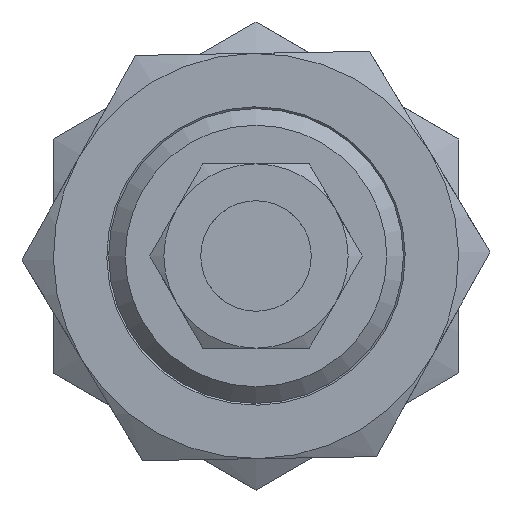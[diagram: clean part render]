
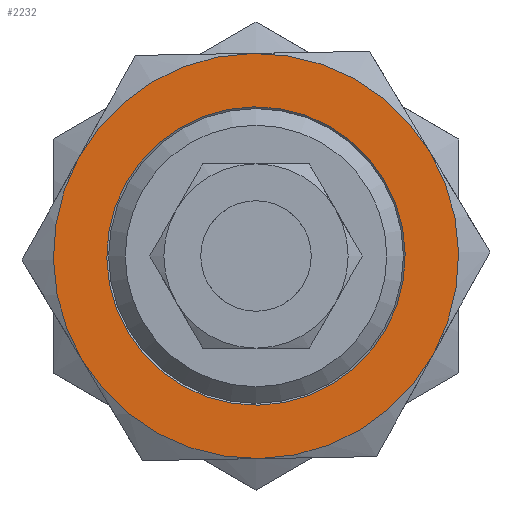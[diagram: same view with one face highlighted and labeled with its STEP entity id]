
A CAD part, front view. The second image highlights one B-rep face of the part: STEP entity #2232.
In plain terms, the highlighted planar face has unit normal (0, -1, 0) as drawn and (0, 0, 1) by its records, which use the part's own axes.
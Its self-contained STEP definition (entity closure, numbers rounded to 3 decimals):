
#1708=CARTESIAN_POINT('',(5.5,9.526,6.));
#1709=VERTEX_POINT('',#1708);
#1723=CARTESIAN_POINT('',(-5.5,9.526,6.));
#1724=VERTEX_POINT('',#1723);
#1738=CARTESIAN_POINT('',(0.0,0.0,6.));
#1739=DIRECTION('',(0.0,0.0,1.0));
#1740=DIRECTION('',(0.0,-1.0,0.0));
#1741=AXIS2_PLACEMENT_3D('',#1738,#1739,#1740);
#1742=CIRCLE('',#1741,11.0);
#1743=EDGE_CURVE('',#1709,#1724,#1742,.T.);
#1755=CARTESIAN_POINT('',(11.,0.,6.));
#1756=VERTEX_POINT('',#1755);
#1783=CARTESIAN_POINT('',(0.0,0.0,6.));
#1784=DIRECTION('',(0.0,0.0,1.0));
#1785=DIRECTION('',(0.0,-1.0,0.0));
#1786=AXIS2_PLACEMENT_3D('',#1783,#1784,#1785);
#1787=CIRCLE('',#1786,11.0);
#1788=EDGE_CURVE('',#1756,#1709,#1787,.T.);
#1800=CARTESIAN_POINT('',(5.5,-9.526,6.));
#1801=VERTEX_POINT('',#1800);
#1828=CARTESIAN_POINT('',(0.0,0.0,6.));
#1829=DIRECTION('',(0.0,0.0,1.0));
#1830=DIRECTION('',(0.0,-1.0,0.0));
#1831=AXIS2_PLACEMENT_3D('',#1828,#1829,#1830);
#1832=CIRCLE('',#1831,11.0);
#1833=EDGE_CURVE('',#1801,#1756,#1832,.T.);
#1858=CARTESIAN_POINT('',(-5.5,-9.526,6.));
#1859=VERTEX_POINT('',#1858);
#1860=CARTESIAN_POINT('',(0.0,0.0,6.));
#1861=DIRECTION('',(0.0,0.0,1.0));
#1862=DIRECTION('',(0.0,-1.0,0.0));
#1863=AXIS2_PLACEMENT_3D('',#1860,#1861,#1862);
#1864=CIRCLE('',#1863,11.0);
#1865=EDGE_CURVE('',#1859,#1801,#1864,.T.);
#1903=CARTESIAN_POINT('',(-11.0,0.0,6.));
#1904=VERTEX_POINT('',#1903);
#1905=CARTESIAN_POINT('',(0.0,0.0,6.));
#1906=DIRECTION('',(0.0,0.0,1.0));
#1907=DIRECTION('',(0.0,-1.0,0.0));
#1908=AXIS2_PLACEMENT_3D('',#1905,#1906,#1907);
#1909=CIRCLE('',#1908,11.0);
#1910=EDGE_CURVE('',#1904,#1859,#1909,.T.);
#1948=CARTESIAN_POINT('',(0.0,0.0,6.));
#1949=DIRECTION('',(0.0,0.0,1.0));
#1950=DIRECTION('',(0.0,-1.0,0.0));
#1951=AXIS2_PLACEMENT_3D('',#1948,#1949,#1950);
#1952=CIRCLE('',#1951,11.0);
#1953=EDGE_CURVE('',#1724,#1904,#1952,.T.);
#2108=CARTESIAN_POINT('',(8.1,0.0,6.));
#2109=VERTEX_POINT('',#2108);
#2110=CARTESIAN_POINT('',(0.0,0.0,6.));
#2111=DIRECTION('',(0.0,0.0,-1.0));
#2112=DIRECTION('',(1.0,0.0,0.0));
#2113=AXIS2_PLACEMENT_3D('',#2110,#2111,#2112);
#2114=CIRCLE('',#2113,8.1);
#2115=EDGE_CURVE('',#2109,#2109,#2114,.T.);
#2216=CARTESIAN_POINT('',(0.,0.,6.));
#2217=DIRECTION('',(0.0,0.0,1.0));
#2218=DIRECTION('',(1.0,0.0,0.0));
#2219=AXIS2_PLACEMENT_3D('',#2216,#2217,#2218);
#2220=PLANE('',#2219);
#2221=ORIENTED_EDGE('',*,*,#1953,.T.);
#2222=ORIENTED_EDGE('',*,*,#1910,.T.);
#2223=ORIENTED_EDGE('',*,*,#1865,.T.);
#2224=ORIENTED_EDGE('',*,*,#1833,.T.);
#2225=ORIENTED_EDGE('',*,*,#1788,.T.);
#2226=ORIENTED_EDGE('',*,*,#1743,.T.);
#2227=EDGE_LOOP('',(#2221,#2222,#2223,#2224,#2225,#2226));
#2228=FACE_OUTER_BOUND('',#2227,.T.);
#2229=ORIENTED_EDGE('',*,*,#2115,.T.);
#2230=EDGE_LOOP('',(#2229));
#2231=FACE_BOUND('',#2230,.T.);
#2232=ADVANCED_FACE('',(#2228,#2231),#2220,.T.);
